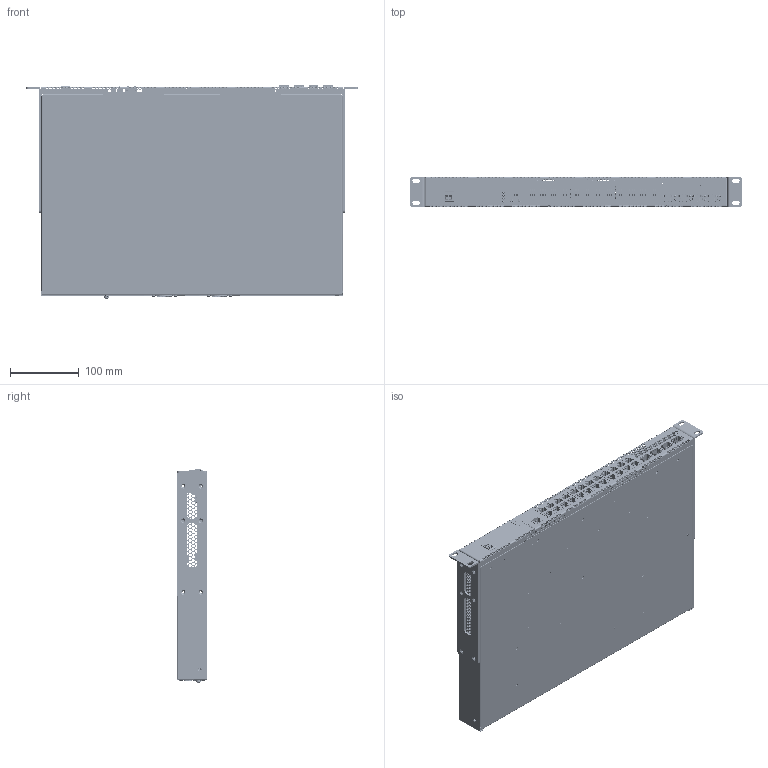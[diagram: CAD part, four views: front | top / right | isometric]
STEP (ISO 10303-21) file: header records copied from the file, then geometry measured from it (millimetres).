
FILE_DESCRIPTION (( 'STEP AP214' ), '1' );
FILE_NAME ('_MES2300-24PDC.STEP', '2025-04-04T09:24:41', ( '' ), ( '' ), 'SwSTEP 2.0', 'SolidWorks 2023', '' );
FILE_SCHEMA (( 'AUTOMOTIVE_DESIGN' ));
Length unit declared in the file: millimetre
Products named in the file (33): _PCHSN_H-L0500-1100-5-03-1N1W; _IND4PIPE.002 (2020.08.13)_clear; _MES2300-24PDC.19.1.010.1v1(1); _MES2300-24PDC.19.1.000.1v1(1)_MES2300-24PDC; _mesmat_1v0; _IND4PIPE.001 (2020.08.13)_default; _SM7240A (platan); _DIN7985 M3_M3x25; _SFP_CAGE_1X1_SFP_CAGE_1X1; _DIN7985 M4_DIN7985 M4x10; _KF0420_KF0420B1HS-R; _RJ45_2X4_8P8C_WL_RJ45_2X4_8P8C_WL_kingsun 3027s-48831 v2; _FRONT2_5H5EX_FRONT2_5H5EX_FRONT 2,5-H-SA 5-EX; _MES2300-24PDC.19.1.021.1v1(1)_MES2300-24PDC.19.1.021; _E1_2_E1_2; _MES2300-24PDC; _RJ45_1X1_LPJE106XCNL-3; _MES2300-24PDC.19.1.001.1v1(0)_MES2300-24PDC; _SM-IND-01 (1v1) СБ; _ПП mes230024p_rev.c1_1v1_Чертежи; _FRONT2_5H5EX_FRONT2_5H5EX_D-FRONT 2,5H; _MES2300-24PDC.19.1.020.1v1(1); _SC36_SC36_SC36-11CGKWA; _Plate MES-PWR-BAT_1v1 (ALL)_MES-PWR-BAT-HP; _SFP_CON_SFP_CON_TYCO 1367073 v2; _Plate mesmat_1v0_MES‐PWR‐BAT; _IND4PIPE.000 (2020.08.13); _LED2X1RYG_55307XXF_LED2X1RYG_55307XXF_FLR-32W04P (model); _DIN6798 А_DIN 6798A-4.3; _MES2300-24PDC.19.1.011.1v1(1); _IT1127_IT1127_TSTP4548-250AH; _FLANGE.01.009.XXX_RAL7035; _ПП SM-IND-01 (1v1)
Assembly tree (57 placements, depth 4):
  _MES2300-24PDC
    _SM-IND-01 (1v1) СБ
      _ПП SM-IND-01 (1v1)
        _IT1127_IT1127_TSTP4548-250AH
        _SC36_SC36_SC36-11CGKWA
      _IND4PIPE.000 (2020.08.13)
        _IND4PIPE.001 (2020.08.13)_default
        _IND4PIPE.002 (2020.08.13)_clear  x4
    _ПП mes230024p_rev.c1_1v1_Чертежи
      _SFP_CAGE_1X1_SFP_CAGE_1X1  x4
      _LED2X1RYG_55307XXF_LED2X1RYG_55307XXF_FLR-32W04P (model)  x4
      _RJ45_1X1_LPJE106XCNL-3
      _SFP_CON_SFP_CON_TYCO 1367073 v2  x4
      _RJ45_2X4_8P8C_WL_RJ45_2X4_8P8C_WL_kingsun 3027s-48831 v2  x3
    _Plate MES-PWR-BAT_1v1 (ALL)_MES-PWR-BAT-HP
      _Plate mesmat_1v0_MES‐PWR‐BAT
        _mesmat_1v0
        _FRONT2_5H5EX_FRONT2_5H5EX_FRONT 2,5-H-SA 5-EX
        _FRONT2_5H5EX_FRONT2_5H5EX_D-FRONT 2,5H
        _E1_2_E1_2  x2
    _MES2300-24PDC.19.1.000.1v1(1)_MES2300-24PDC
      _MES2300-24PDC.19.1.010.1v1(1)
        _MES2300-24PDC.19.1.011.1v1(1)
      _MES2300-24PDC.19.1.001.1v1(0)_MES2300-24PDC
      _MES2300-24PDC.19.1.020.1v1(1)
        _MES2300-24PDC.19.1.021.1v1(1)_MES2300-24PDC.19.1.021
      _FLANGE.01.009.XXX_RAL7035  x2
    _KF0420_KF0420B1HS-R  x2
    _SM7240A (platan)  x2
    _DIN7985 M3_M3x25  x8
    _DIN6798 А_DIN 6798A-4.3
    _DIN7985 M4_DIN7985 M4x10
    _PCHSN_H-L0500-1100-5-03-1N1W
Bounding box: 482.6 x 43.6 x 310.42 mm (x, y, z)
Volume: 526210.6 mm3; surface area: 825054.3 mm2
Topology: 56 solids, 56 shells, 18303 faces, 51914 edges, 33591 vertices
Faces by surface type: plane 11758, cylinder 4305, cone 1878, bspline 232, torus 112, sphere 18
Entity records: 292385 total; most frequent: CARTESIAN_POINT 57175, ORIENTED_EDGE 50236, DIRECTION 46245, EDGE_CURVE 25118, VECTOR 20221, LINE 20221, VERTEX_POINT 16154, AXIS2_PLACEMENT_3D 13012
